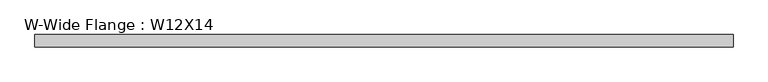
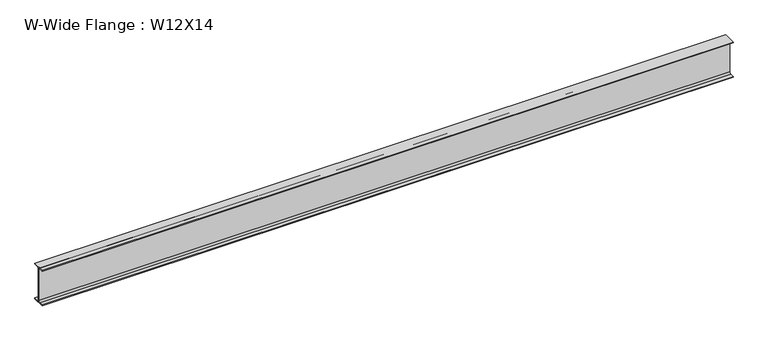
"""IFC4 building model written with IfcOpenShell, lengths in millimetres: beam geometry, W-Wide Flange : W12X14."""

from ifc_helpers import new_model, si_unit, point, frame, frame_2d, origin, place, context, project, spatial, polyline, circle_curve, trimmed, segment, composite_curve, outline, extrude, source, transform, mapped, element, save


def w_wide_flange_w12x14_6eb70244(model_context):
    return source(origin(), model_context, "Body", "SweptSolid", [
        extrude(outline(composite_curve([segment(polyline([(50.419, -145.415), (50.419, -151.13), (-50.419, -151.13), (-50.419, -145.415), (-15.875, -145.415)]), True, "CONTINUOUS"), segment(trimmed(circle_curve(frame_2d((-15.875, -132.08)), 13.335), [point((-15.875, -145.415))], [point((-2.54, -132.08))], True, "CARTESIAN"), True, "CONTINUOUS"), segment(polyline([(-2.54, -132.08), (-2.54, 132.08)]), True, "CONTINUOUS"), segment(trimmed(circle_curve(frame_2d((-15.875, 132.08)), 13.335), [point((-2.54, 132.08))], [point((-15.875, 145.415))], True, "CARTESIAN"), True, "CONTINUOUS"), segment(polyline([(-15.875, 145.415), (-50.419, 145.415), (-50.419, 151.13), (50.419, 151.13), (50.419, 145.415), (15.875, 145.415)]), True, "CONTINUOUS"), segment(trimmed(circle_curve(frame_2d((15.875, 132.08)), 13.335), [point((15.875, 145.415))], [point((2.54, 132.08))], True, "CARTESIAN"), True, "CONTINUOUS"), segment(polyline([(2.54, 132.08), (2.54, -132.08)]), True, "CONTINUOUS"), segment(trimmed(circle_curve(frame_2d((15.875, -132.08)), 13.335), [point((2.54, -132.08))], [point((15.875, -145.415))], True, "CARTESIAN"), True, "CONTINUOUS"), segment(polyline([(15.875, -145.415), (50.419, -145.415)]), True, "CONTINUOUS")], self_intersect=False)), frame((-2796.7470724, 0.0, 0.0), z_axis=(1.0, 0.0, 0.0), x_axis=(0.0, 1.0, 0.0)), (0.0, 0.0, 1.0), 5600.7),
    ])


if __name__ == "__main__":
    model = new_model("IFC4")
    model_context = context("Model", 3, world=origin())
    ifc_project = project(units=[si_unit("LENGTHUNIT", "METRE", prefix="MILLI")], contexts=[model_context])
    site = spatial("IfcSite", under=ifc_project)
    building = spatial("IfcBuilding", under=site)
    placement = place(None, origin())
    w_wide_flange_w12x14_shape = w_wide_flange_w12x14_6eb70244(model_context)
    element("IfcBeam", 1, ObjectType="W-Wide Flange : W12X14", at=placement, inside=building, context=model_context, shape_type="MappedRepresentation", body=[
        mapped(w_wide_flange_w12x14_shape, transform((0.0, 0.0, 0.0), x_axis=(1.0, 0.0, 0.0), y_axis=(0.0, 1.0, 0.0), z_axis=(0.0, 0.0, 1.0))),
    ])
    save(model, "model.ifc")
